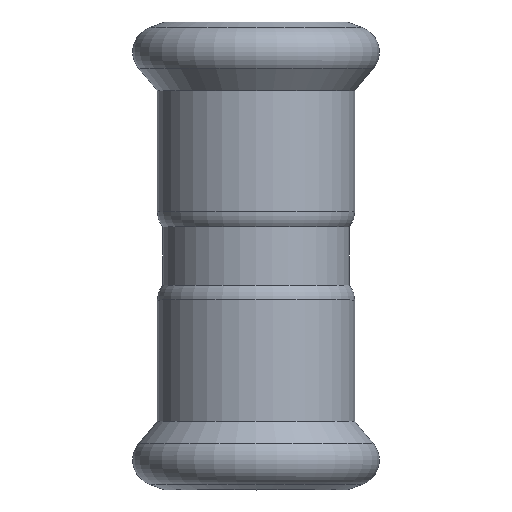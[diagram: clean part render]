
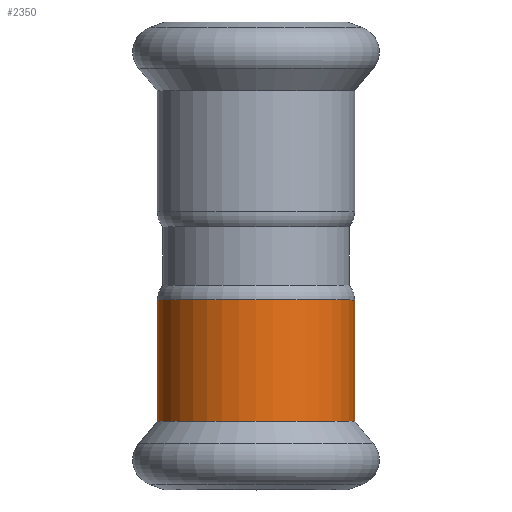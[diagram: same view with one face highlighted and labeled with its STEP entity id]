
A CAD part, top view. The second image highlights one B-rep face of the part: STEP entity #2350.
In plain terms, the highlighted cylindrical face has radius 10.575 mm (diameter 21.15 mm), a partial arc.
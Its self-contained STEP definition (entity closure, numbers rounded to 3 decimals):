
#60=CARTESIAN_POINT('',(30.026,37.977,
0.));
#70=DIRECTION('',(0.,1.,0.));
#80=VECTOR('',#70,1.);
#90=LINE('',#60,#80);
#100=CARTESIAN_POINT('',(30.026,31.477,
0.));
#110=VERTEX_POINT('',#100);
#120=CARTESIAN_POINT('',(30.026,44.477,
0.));
#130=VERTEX_POINT('',#120);
#140=EDGE_CURVE('',#110,#130,#90,.T.);
#160=CARTESIAN_POINT('',(40.601,44.477,0.));
#170=DIRECTION('',(0.,1.,0.));
#180=DIRECTION('',(1.,0.,0.));
#190=AXIS2_PLACEMENT_3D('',#160,#170,#180);
#200=CIRCLE('',#190,10.575);
#210=CARTESIAN_POINT('',(51.176,44.477,0.));
#220=VERTEX_POINT('644870-1530253459-180373220723-0 1027913',#210);
#250=CARTESIAN_POINT('',(51.176,37.977,0.));
#260=DIRECTION('',(0.,1.,0.));
#270=VECTOR('',#260,1.);
#280=LINE('',#250,#270);
#290=CARTESIAN_POINT('',(51.176,31.477,0.));
#300=VERTEX_POINT('644870-1530253459-180373220723-0 1027895',#290);
#310=EDGE_CURVE('',#300,#220,#280,.T.);
#330=CARTESIAN_POINT('',(40.601,31.477,0.));
#340=DIRECTION('',(0.,1.,0.));
#350=DIRECTION('',(1.,0.,0.));
#360=AXIS2_PLACEMENT_3D('',#330,#340,#350);
#370=CIRCLE('',#360,10.575);
#2170=EDGE_CURVE('644870-1530253459-180373220723-0 1027891',#300,#110,
#370,.T.);
#2230=CARTESIAN_POINT('',(40.601,37.977,0.));
#2240=DIRECTION('',(0.,1.,0.));
#2250=DIRECTION('',(1.,0.,0.));
#2260=AXIS2_PLACEMENT_3D('',#2230,#2240,#2250);
#2270=CYLINDRICAL_SURFACE('',#2260,10.575);
#2280=EDGE_CURVE('644870-1530253459-180373220723-0 1027909',#220,#130,
#200,.T.);
#2290=ORIENTED_EDGE('',*,*,#2280,.F.);
#2300=ORIENTED_EDGE('',*,*,#140,.T.);
#2310=ORIENTED_EDGE('',*,*,#2170,.T.);
#2320=ORIENTED_EDGE('',*,*,#310,.F.);
#2330=EDGE_LOOP('',(#2320,#2310,#2300,#2290));
#2340=FACE_OUTER_BOUND('',#2330,.T.);
#2350=ADVANCED_FACE('644870-1530253459-180373220723-0 1027902',(#2340),
#2270,.T.);
